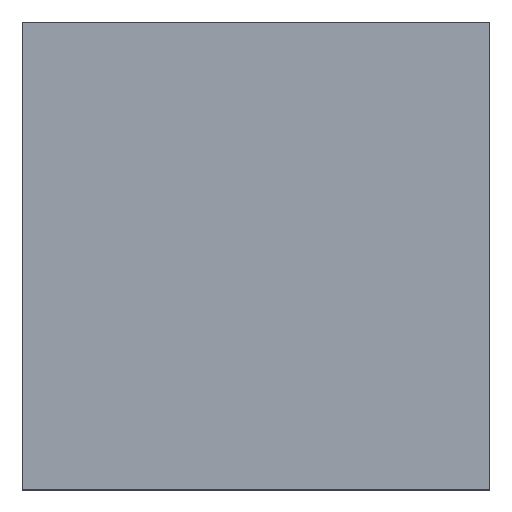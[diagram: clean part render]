
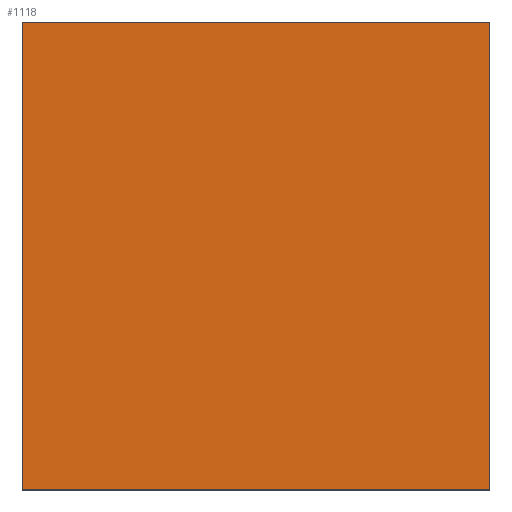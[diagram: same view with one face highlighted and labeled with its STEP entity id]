
A CAD part, top view. The second image highlights one B-rep face of the part: STEP entity #1118.
In plain terms, the highlighted planar face has unit normal (0, 0, 1).
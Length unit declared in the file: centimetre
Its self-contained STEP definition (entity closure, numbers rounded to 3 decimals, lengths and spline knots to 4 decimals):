
#5 = EDGE_CURVE ( 'NONE', #543, #30, #385, .T. ) ;
#18 = DIRECTION ( 'NONE',  ( 0., 1., 0. ) ) ;
#30 = VERTEX_POINT ( 'NONE', #142 ) ;
#142 = CARTESIAN_POINT ( 'NONE',  ( 1000., 0., 1000. ) ) ;
#155 = CARTESIAN_POINT ( 'NONE',  ( 0., 0., 1000. ) ) ;
#182 = VERTEX_POINT ( 'NONE', #444 ) ;
#251 = LINE ( 'NONE', #400, #610 ) ;
#307 = DIRECTION ( 'NONE',  ( 0., -1., 0. ) ) ;
#329 = CARTESIAN_POINT ( 'NONE',  ( 0., 1000., 1000. ) ) ;
#331 = EDGE_CURVE ( 'NONE', #182, #543, #1212, .T. ) ;
#381 = LINE ( 'NONE', #1029, #713 ) ;
#385 = LINE ( 'NONE', #155, #1105 ) ;
#400 = CARTESIAN_POINT ( 'NONE',  ( 1000., 1000., 1000. ) ) ;
#412 = ORIENTED_EDGE ( 'NONE', *, *, #331, .T. ) ;
#444 = CARTESIAN_POINT ( 'NONE',  ( 0., 1000., 1000. ) ) ;
#507 = DIRECTION ( 'NONE',  ( -1., 0., 0. ) ) ;
#543 = VERTEX_POINT ( 'NONE', #1503 ) ;
#594 = ORIENTED_EDGE ( 'NONE', *, *, #620, .T. ) ;
#610 = VECTOR ( 'NONE', #18, 100. ) ;
#620 = EDGE_CURVE ( 'NONE', #1197, #182, #381, .T. ) ;
#627 = DIRECTION ( 'NONE',  ( 1., 0., 0. ) ) ;
#659 = DIRECTION ( 'NONE',  ( 1., 0., 0. ) ) ;
#713 = VECTOR ( 'NONE', #507, 100. ) ;
#732 = EDGE_CURVE ( 'NONE', #30, #1197, #251, .T. ) ;
#743 = ORIENTED_EDGE ( 'NONE', *, *, #732, .T. ) ;
#873 = CARTESIAN_POINT ( 'NONE',  ( 0., 0., 1000. ) ) ;
#895 = DIRECTION ( 'NONE',  ( 0., 0., 1. ) ) ;
#911 = AXIS2_PLACEMENT_3D ( 'NONE', #873, #895, #627 ) ;
#998 = PLANE ( 'NONE',  #911 ) ;
#1027 = ORIENTED_EDGE ( 'NONE', *, *, #5, .T. ) ;
#1029 = CARTESIAN_POINT ( 'NONE',  ( 0., 1000., 1000. ) ) ;
#1105 = VECTOR ( 'NONE', #659, 100. ) ;
#1118 = ADVANCED_FACE ( 'NONE', ( #1370 ), #998, .T. ) ;
#1125 = CARTESIAN_POINT ( 'NONE',  ( 1000., 1000., 1000. ) ) ;
#1197 = VERTEX_POINT ( 'NONE', #1125 ) ;
#1212 = LINE ( 'NONE', #329, #1253 ) ;
#1253 = VECTOR ( 'NONE', #307, 100. ) ;
#1261 = EDGE_LOOP ( 'NONE', ( #412, #1027, #743, #594 ) ) ;
#1370 = FACE_OUTER_BOUND ( 'NONE', #1261, .T. ) ;
#1503 = CARTESIAN_POINT ( 'NONE',  ( 0., 0., 1000. ) ) ;
